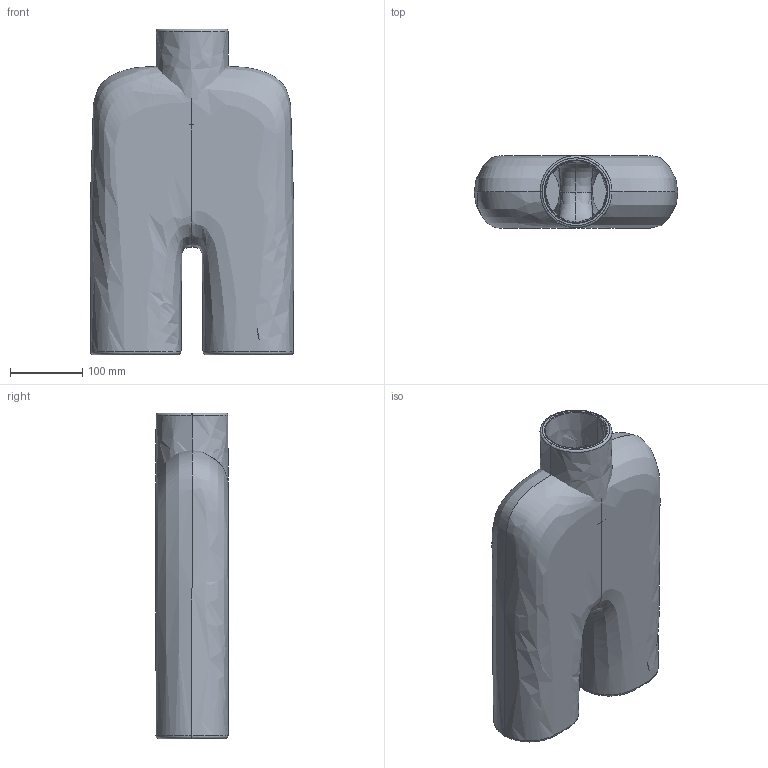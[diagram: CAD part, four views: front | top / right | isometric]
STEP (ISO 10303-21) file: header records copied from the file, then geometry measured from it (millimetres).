
FILE_DESCRIPTION(/* description */ (''),/* implementation_level */ '2;1');
FILE_NAME(/* name */ 'Cobra Tall',/* time_stamp */ '2020-07-07T11:18:20+02:00',/* author */ (''),/* organization */ (''),/* preprocessor_version */ 'ST-DEVELOPER v15',/* originating_system */ '',/* authorisation */ '');
FILE_SCHEMA (('AUTOMOTIVE_DESIGN'));
Length unit declared in the file: millimetre
Products named in the file (1): Document
Bounding box: 281.18 x 100 x 450.03 mm (x, y, z)
Surface area: 607778.2 mm2 (no closed solid volume)
Topology: 0 solids, 7 shells, 71 faces, 172 edges, 102 vertices
Faces by surface type: bspline 68, plane 3
Entity records: 59709 total; most frequent: CARTESIAN_POINT 58793, ORIENTED_EDGE 300, EDGE_CURVE 172, VERTEX_POINT 102, EDGE_LOOP 72, ADVANCED_FACE 71, FACE_OUTER_BOUND 71, B_SPLINE_CURVE_WITH_KNOTS 18
